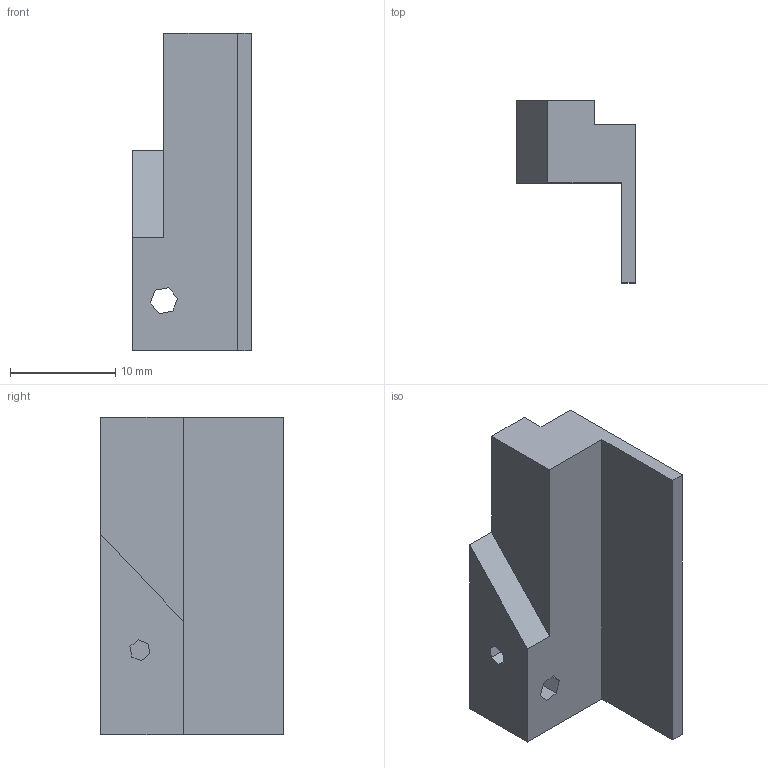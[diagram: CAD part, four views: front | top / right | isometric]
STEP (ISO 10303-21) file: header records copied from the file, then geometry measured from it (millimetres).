
FILE_DESCRIPTION(('Open CASCADE Model'),'2;1');
FILE_NAME('Open CASCADE Shape Model','2021-04-29T10:27:11',('Author'),( 'Open CASCADE'),'Open CASCADE STEP processor 7.4','Open CASCADE 7.4' ,'Unknown');
FILE_SCHEMA(('AUTOMOTIVE_DESIGN { 1 0 10303 214 1 1 1 1 }'));
Length unit declared in the file: millimetre
Products named in the file (1): Open CASCADE STEP translator 7.4 411
Bounding box: 11.27 x 17.28 x 30.13 mm (x, y, z)
Volume: 2249.2 mm3; surface area: 1909.6 mm2
Topology: 1 solids, 1 shells, 26 faces, 69 edges, 46 vertices
Faces by surface type: plane 26
Entity records: 1692 total; most frequent: CARTESIAN_POINT 292, DIRECTION 249, LINE 195, VECTOR 195, ORIENTED_EDGE 138, PCURVE 138, DEFINITIONAL_REPRESENTATION 138, EDGE_CURVE 69
